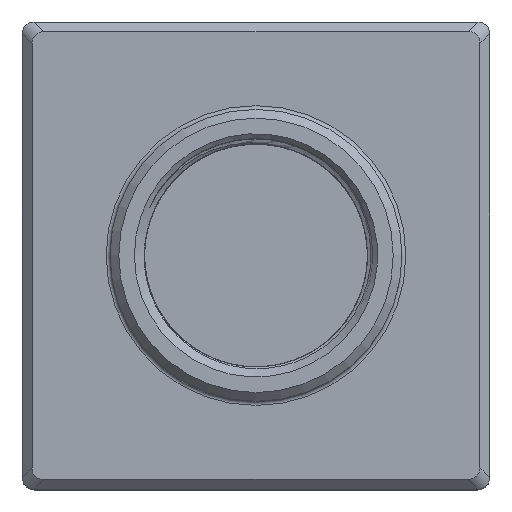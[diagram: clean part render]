
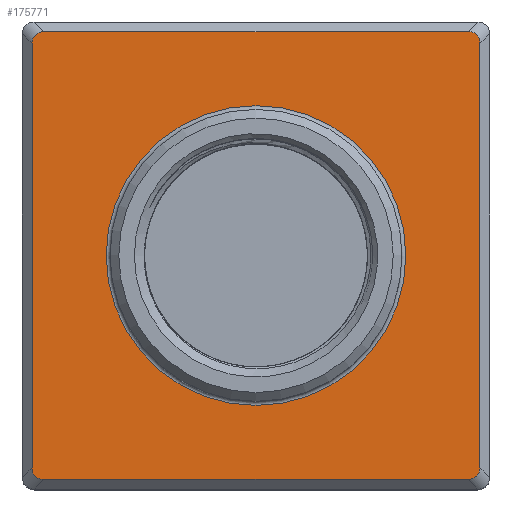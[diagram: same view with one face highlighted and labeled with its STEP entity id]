
A CAD part, top view. The second image highlights one B-rep face of the part: STEP entity #175771.
In plain terms, the highlighted planar face has unit normal (0, 0, 1).
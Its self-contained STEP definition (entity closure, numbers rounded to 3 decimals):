
#160 = CARTESIAN_POINT ( 'NONE',  ( 10.899, 11.5, 8. ) ) ;
#8790 = CARTESIAN_POINT ( 'NONE',  ( -11.5, -11.28, 8. ) ) ;
#10020 = VERTEX_POINT ( 'NONE', #83365 ) ;
#10263 = CARTESIAN_POINT ( 'NONE',  ( 0., 0., 8. ) ) ;
#12902 = LINE ( 'NONE', #56966, #241951 ) ;
#12937 = ORIENTED_EDGE ( 'NONE', *, *, #219618, .T. ) ;
#17841 = EDGE_CURVE ( 'NONE', #51396, #222477, #206346, .T. ) ;
#18058 = DIRECTION ( 'NONE',  ( -1., 0., 0. ) ) ;
#19008 = ORIENTED_EDGE ( 'NONE', *, *, #215497, .T. ) ;
#19836 = CARTESIAN_POINT ( 'NONE',  ( 11.5, 11.28, 8. ) ) ;
#20664 = CARTESIAN_POINT ( 'NONE',  ( 11.5, 10.899, 8. ) ) ;
#21258 = CARTESIAN_POINT ( 'NONE',  ( -11.5, -10.899, 8. ) ) ;
#22979 = FACE_BOUND ( 'NONE', #28433, .T. ) ;
#26877 = CARTESIAN_POINT ( 'NONE',  ( -11.28, -11.5, 8. ) ) ;
#28433 = EDGE_LOOP ( 'NONE', ( #129230 ) ) ;
#29021 = ORIENTED_EDGE ( 'NONE', *, *, #89084, .T. ) ;
#30836 = CARTESIAN_POINT ( 'NONE',  ( -11.5, 0., 8. ) ) ;
#30893 = VERTEX_POINT ( 'NONE', #40317 ) ;
#35405 = CARTESIAN_POINT ( 'NONE',  ( -10.899, 11.5, 8. ) ) ;
#38728 = CARTESIAN_POINT ( 'NONE',  ( 11.28, 11.5, 8. ) ) ;
#39591 = CIRCLE ( 'NONE', #214929, 7.7 ) ;
#40317 = CARTESIAN_POINT ( 'NONE',  ( 10.899, 11.5, 8. ) ) ;
#51396 = VERTEX_POINT ( 'NONE', #179786 ) ;
#56966 = CARTESIAN_POINT ( 'NONE',  ( 11.5, 0., 8. ) ) ;
#65697 =( BOUNDED_CURVE ( )  B_SPLINE_CURVE ( 3, ( #35405, #71564, #224038, #240422 ),
 .UNSPECIFIED., .F., .F. ) 
 B_SPLINE_CURVE_WITH_KNOTS ( ( 4, 4 ),
 ( 5.76, 6.807 ),
 .UNSPECIFIED. ) 
 CURVE ( )  GEOMETRIC_REPRESENTATION_ITEM ( )  RATIONAL_B_SPLINE_CURVE ( ( 1., 0.911, 0.911, 1. ) ) 
 REPRESENTATION_ITEM ( '' )  );
#67273 = ORIENTED_EDGE ( 'NONE', *, *, #216190, .T. ) ;
#70078 = FACE_OUTER_BOUND ( 'NONE', #117796, .T. ) ;
#71564 = CARTESIAN_POINT ( 'NONE',  ( -11.28, 11.5, 8. ) ) ;
#77840 = DIRECTION ( 'NONE',  ( 0., 0., -1. ) ) ;
#81928 = CARTESIAN_POINT ( 'NONE',  ( -10.899, -11.5, 8. ) ) ;
#83365 = CARTESIAN_POINT ( 'NONE',  ( -7.7, 0., 8. ) ) ;
#85365 = VECTOR ( 'NONE', #18058, 1000. ) ;
#85469 = CARTESIAN_POINT ( 'NONE',  ( 10.899, -11.5, 8. ) ) ;
#86986 = CARTESIAN_POINT ( 'NONE',  ( 10.899, -11.5, 8. ) ) ;
#89084 = EDGE_CURVE ( 'NONE', #230222, #103887, #12902, .T. ) ;
#101478 = CARTESIAN_POINT ( 'NONE',  ( 0., -11.5, 8. ) ) ;
#103887 = VERTEX_POINT ( 'NONE', #122095 ) ;
#105001 = EDGE_CURVE ( 'NONE', #103887, #30893, #239270, .T. ) ;
#105452 = DIRECTION ( 'NONE',  ( -1., 0., 0. ) ) ;
#105834 = CARTESIAN_POINT ( 'NONE',  ( 11.28, -11.5, 8. ) ) ;
#110441 = VERTEX_POINT ( 'NONE', #230187 ) ;
#116380 = CARTESIAN_POINT ( 'NONE',  ( 11.5, -10.899, 8. ) ) ;
#117796 = EDGE_LOOP ( 'NONE', ( #12937, #173081, #29021, #132105, #231094, #67273, #19008, #207966 ) ) ;
#119110 = AXIS2_PLACEMENT_3D ( 'NONE', #10263, #197988, #105452 ) ;
#120103 = VERTEX_POINT ( 'NONE', #134562 ) ;
#122095 = CARTESIAN_POINT ( 'NONE',  ( 11.5, 10.899, 8. ) ) ;
#129230 = ORIENTED_EDGE ( 'NONE', *, *, #202957, .T. ) ;
#129341 = LINE ( 'NONE', #207500, #85365 ) ;
#131540 = DIRECTION ( 'NONE',  ( 0., 1., 0. ) ) ;
#132105 = ORIENTED_EDGE ( 'NONE', *, *, #105001, .T. ) ;
#134562 = CARTESIAN_POINT ( 'NONE',  ( -11.5, 10.899, 8. ) ) ;
#143155 = EDGE_CURVE ( 'NONE', #214229, #230222, #221233, .T. ) ;
#156635 = VECTOR ( 'NONE', #200481, 1000. ) ;
#159833 = EDGE_CURVE ( 'NONE', #30893, #110441, #129341, .T. ) ;
#171209 = CARTESIAN_POINT ( 'NONE',  ( 0., 0., 8. ) ) ;
#173081 = ORIENTED_EDGE ( 'NONE', *, *, #143155, .T. ) ;
#175771 = ADVANCED_FACE ( 'NONE', ( #22979, #70078 ), #217809, .F. ) ;
#178193 = CARTESIAN_POINT ( 'NONE',  ( -10.899, -11.5, 8. ) ) ;
#179786 = CARTESIAN_POINT ( 'NONE',  ( -11.5, -10.899, 8. ) ) ;
#192745 = LINE ( 'NONE', #101478, #207408 ) ;
#197562 = CARTESIAN_POINT ( 'NONE',  ( 11.5, -11.28, 8. ) ) ;
#197988 = DIRECTION ( 'NONE',  ( 0., 0., -1. ) ) ;
#200481 = DIRECTION ( 'NONE',  ( 0., -1., 0. ) ) ;
#202957 = EDGE_CURVE ( 'NONE', #10020, #10020, #39591, .T. ) ;
#206346 =( BOUNDED_CURVE ( )  B_SPLINE_CURVE ( 3, ( #21258, #8790, #26877, #81928 ),
 .UNSPECIFIED., .F., .F. ) 
 B_SPLINE_CURVE_WITH_KNOTS ( ( 4, 4 ),
 ( 5.76, 6.807 ),
 .UNSPECIFIED. ) 
 CURVE ( )  GEOMETRIC_REPRESENTATION_ITEM ( )  RATIONAL_B_SPLINE_CURVE ( ( 1., 0.911, 0.911, 1. ) ) 
 REPRESENTATION_ITEM ( '' )  );
#207408 = VECTOR ( 'NONE', #229479, 1000. ) ;
#207500 = CARTESIAN_POINT ( 'NONE',  ( 0., 11.5, 8. ) ) ;
#207966 = ORIENTED_EDGE ( 'NONE', *, *, #17841, .T. ) ;
#214229 = VERTEX_POINT ( 'NONE', #85469 ) ;
#214929 = AXIS2_PLACEMENT_3D ( 'NONE', #171209, #77840, #222108 ) ;
#215497 = EDGE_CURVE ( 'NONE', #120103, #51396, #238788, .T. ) ;
#216190 = EDGE_CURVE ( 'NONE', #110441, #120103, #65697, .T. ) ;
#217379 = CARTESIAN_POINT ( 'NONE',  ( 11.5, -10.899, 8. ) ) ;
#217809 = PLANE ( 'NONE',  #119110 ) ;
#219618 = EDGE_CURVE ( 'NONE', #222477, #214229, #192745, .T. ) ;
#221233 =( BOUNDED_CURVE ( )  B_SPLINE_CURVE ( 3, ( #86986, #105834, #197562, #217379 ),
 .UNSPECIFIED., .F., .F. ) 
 B_SPLINE_CURVE_WITH_KNOTS ( ( 4, 4 ),
 ( 2.618, 3.665 ),
 .UNSPECIFIED. ) 
 CURVE ( )  GEOMETRIC_REPRESENTATION_ITEM ( )  RATIONAL_B_SPLINE_CURVE ( ( 1., 0.911, 0.911, 1. ) ) 
 REPRESENTATION_ITEM ( '' )  );
#222108 = DIRECTION ( 'NONE',  ( -1., 0., 0. ) ) ;
#222477 = VERTEX_POINT ( 'NONE', #178193 ) ;
#224038 = CARTESIAN_POINT ( 'NONE',  ( -11.5, 11.28, 8. ) ) ;
#229479 = DIRECTION ( 'NONE',  ( 1., 0., 0. ) ) ;
#230187 = CARTESIAN_POINT ( 'NONE',  ( -10.899, 11.5, 8. ) ) ;
#230222 = VERTEX_POINT ( 'NONE', #116380 ) ;
#231094 = ORIENTED_EDGE ( 'NONE', *, *, #159833, .T. ) ;
#238788 = LINE ( 'NONE', #30836, #156635 ) ;
#239270 =( BOUNDED_CURVE ( )  B_SPLINE_CURVE ( 3, ( #20664, #19836, #38728, #160 ),
 .UNSPECIFIED., .F., .F. ) 
 B_SPLINE_CURVE_WITH_KNOTS ( ( 4, 4 ),
 ( 2.618, 3.665 ),
 .UNSPECIFIED. ) 
 CURVE ( )  GEOMETRIC_REPRESENTATION_ITEM ( )  RATIONAL_B_SPLINE_CURVE ( ( 1., 0.911, 0.911, 1. ) ) 
 REPRESENTATION_ITEM ( '' )  );
#240422 = CARTESIAN_POINT ( 'NONE',  ( -11.5, 10.899, 8. ) ) ;
#241951 = VECTOR ( 'NONE', #131540, 1000. ) ;
